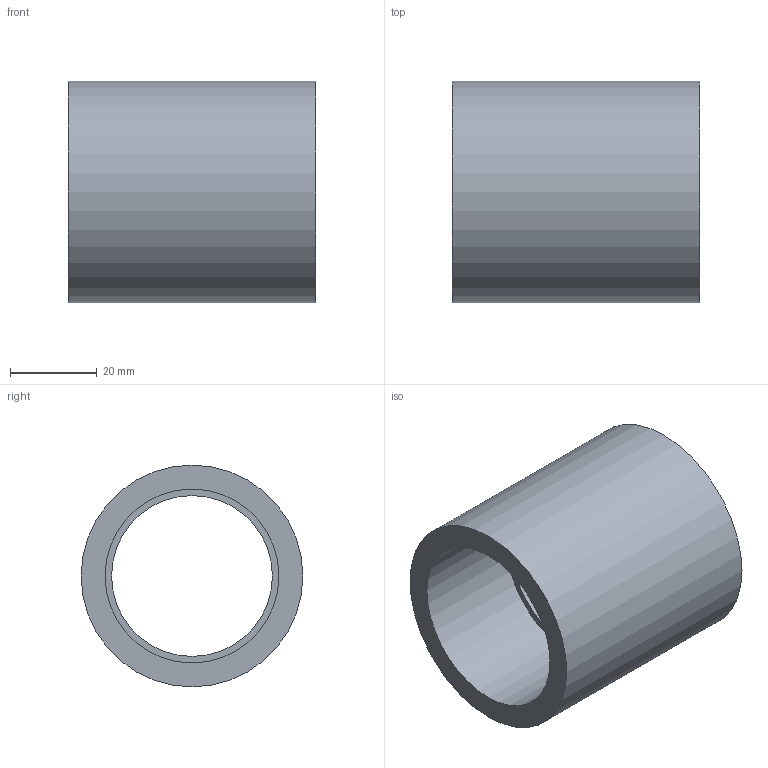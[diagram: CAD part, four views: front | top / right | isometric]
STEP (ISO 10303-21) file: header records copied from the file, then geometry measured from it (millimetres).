
FILE_DESCRIPTION(/* description */ ('PVC manicotti metrici incollaggio'),/* implementation_level */ '2;1');
FILE_NAME(/* name */ 'C:\Users\POLYPIPE\Desktop\DATASET INVENTOR\LIBRERIA EFFAST\RACCORDI 3DxWEB\RDR\3D_RDRMAD\3D_RDRMAD0400.stp',/* time_stamp */ '2018-01-19T14:38:40+01:00',/* author */ ('POLYPIPE'),/* organization */ ('Polypipe Italia s.r.l.'),/* preprocessor_version */ 'ST-DEVELOPER v16.1',/* originating_system */ 'Autodesk Inventor 2016',/* authorisation */ '');
FILE_SCHEMA (('CONFIG_CONTROL_DESIGN'));
Length unit declared in the file: millimetre
Products named in the file (1): 3D_RDRMAD
Bounding box: 57 x 51 x 51 mm (x, y, z)
Volume: 45719.6 mm3; surface area: 18183.5 mm2
Topology: 1 solids, 1 shells, 8 faces, 12 edges, 8 vertices
Faces by surface type: cylinder 4, plane 4
Full cylindrical faces by diameter (mm): 37 x1, 40 x2, 51 x1
Entity records: 192 total; most frequent: DIRECTION 34, CARTESIAN_POINT 25, AXIS2_PLACEMENT_3D 17, EDGE_LOOP 16, ORIENTED_EDGE 16, FACE_BOUND 8, FACE_OUTER_BOUND 8, CIRCLE 8
